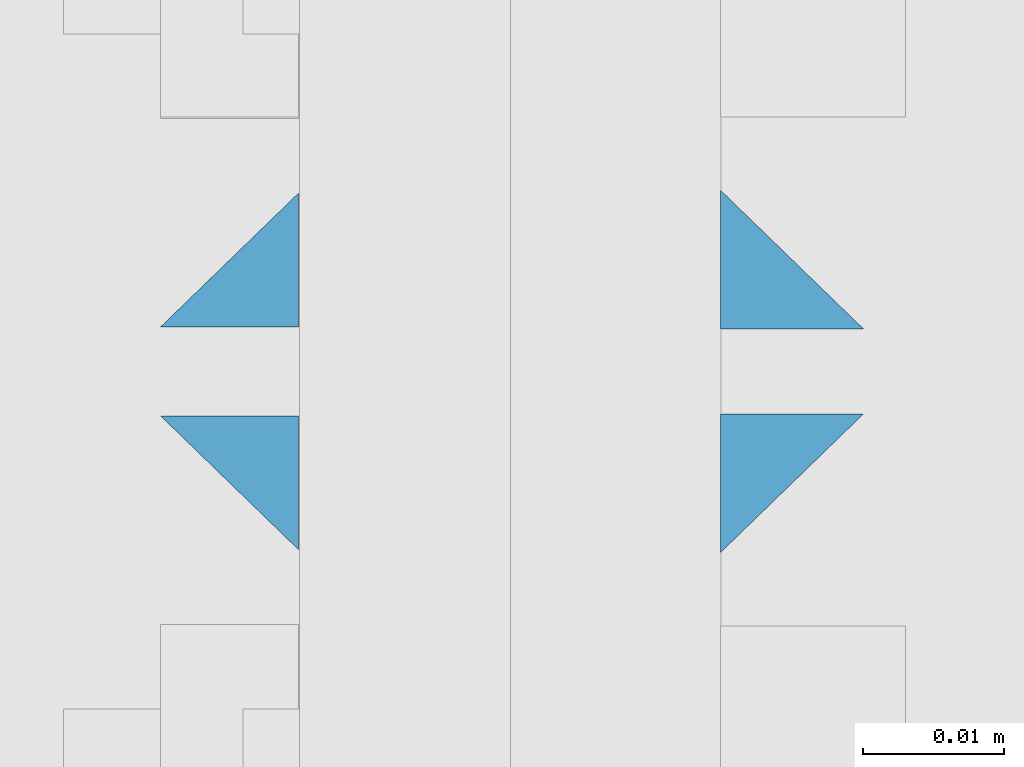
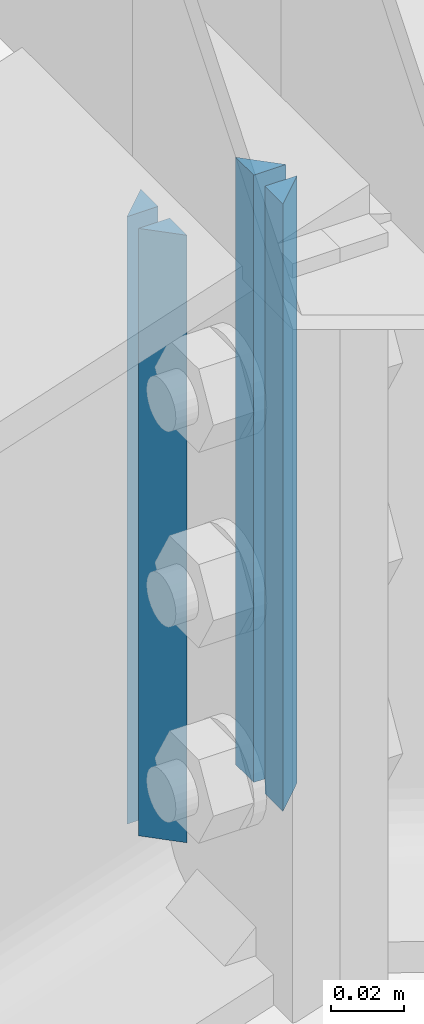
# One storey, part 19 of 53: 6 fasteners.
"""IFC4 building model written with IfcOpenShell, lengths in metres."""

from ifc_helpers import new_model, si_unit, frame, origin_with_axes, place, context, project, spatial, polyline, outline, extrude, type_object, element, save


model = new_model("IFC4")

# Units and contexts
model_context = context("Model", 3, precision=1e-05, world=origin_with_axes())
ifc_project = project(units=[si_unit("LENGTHUNIT", "METRE"), si_unit("AREAUNIT", "SQUARE_METRE"), si_unit("VOLUMEUNIT", "CUBIC_METRE"), si_unit("MASSUNIT", "GRAM", prefix="KILO"), si_unit("TIMEUNIT", "SECOND"), si_unit("PLANEANGLEUNIT", "RADIAN"), si_unit("SOLIDANGLEUNIT", "STERADIAN"), si_unit("THERMODYNAMICTEMPERATUREUNIT", "DEGREE_CELSIUS")], contexts=[model_context])

# Site, building, storey
placement_1 = place(None, origin_with_axes())
site = spatial("IfcSite", under=ifc_project, at=placement_1, Name="Italia", CompositionType="ELEMENT")
building = spatial("IfcBuilding", under=site, at=placement_1, Name="Capannone", CompositionType="ELEMENT")
storey_placement = place(None, frame((0.0, 0.0, 5.550000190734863), z_axis=(0.0, 0.0, 1.0), x_axis=(1.0, 0.0, 0.0)))
storey = spatial("IfcBuildingStorey", under=building, at=storey_placement, Name="Storey 1", CompositionType="ELEMENT", Elevation=5.550000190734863)

# Fasteners
fastener_type_1 = type_object("IfcFastenerType", Name="Collegamenti -1142_-1128 -1143_-1130 -1144_-1132 -1145_-1134 -1146_-1136 -1147_-1138", PredefinedType="WELD")
placement_2 = place(placement_1, origin_with_axes())
fastener_1_placement = place(placement_2, origin_with_axes())
element("IfcFastener", 1, at=fastener_1_placement, inside=storey, type_object=fastener_type_1, Name="Collegamenti -1142_-1128 -1143_-1130 -1144_-1132 -1145_-1134 -1146_-1136 -1147_-1138", context=model_context, shape_type="SweptSolid", body=[
    extrude(outline(polyline([(0.0, 0.0), (0.00986862, 0.0101738), (0.00986862, 0.0), (0.0, 0.0)])), frame((7.01495, 11.9871, 8.07243), z_axis=(0.0, 0.0, -1.0), x_axis=(0.0, 1.0, 0.0)), (0.0, 0.0, 1.0), 0.202095),
])
fastener_type_2 = type_object("IfcFastenerType", Name="Collegamenti -1142_-1128 -1143_-1130 -1144_-1132 -1145_-1134 -1146_-1136 -1147_-1138", PredefinedType="WELD")
fastener_2_placement = place(placement_2, origin_with_axes())
element("IfcFastener", 2, at=fastener_2_placement, inside=storey, type_object=fastener_type_2, Name="Collegamenti -1142_-1128 -1143_-1130 -1144_-1132 -1145_-1134 -1146_-1136 -1147_-1138", context=model_context, shape_type="SweptSolid", body=[
    extrude(outline(polyline([(0.0, 0.0), (-0.00986862, -0.0101738), (-0.00986862, 0.0), (0.0, 0.0)])), frame((7.01495, 12.0129, 7.87034), z_axis=(0.0, 0.0, 1.0), x_axis=(0.0, 1.0, 0.0)), (0.0, 0.0, 1.0), 0.202095),
])
fastener_type_3 = type_object("IfcFastenerType", Name="Collegamenti -1142_-1128 -1143_-1130 -1144_-1132 -1145_-1134 -1146_-1136 -1147_-1138", PredefinedType="WELD")
fastener_3_placement = place(placement_2, origin_with_axes())
element("IfcFastener", 3, at=fastener_3_placement, inside=storey, type_object=fastener_type_3, Name="Collegamenti -1142_-1128 -1143_-1130 -1144_-1132 -1145_-1134 -1146_-1136 -1147_-1138", context=model_context, shape_type="SweptSolid", body=[
    extrude(outline(polyline([(0.0, 0.0), (0.00986862, 0.0101738), (0.00986862, 0.0), (0.0, 0.0)])), frame((7.01495, 11.9871, 8.07243), z_axis=(0.0, 0.0, -1.0), x_axis=(0.0, 1.0, 0.0)), (0.0, 0.0, 1.0), 0.202095),
])
fastener_type_4 = type_object("IfcFastenerType", Name="Collegamenti -1142_-1128 -1143_-1130 -1144_-1132 -1145_-1134 -1146_-1136 -1147_-1138", PredefinedType="WELD")
fastener_4_placement = place(placement_2, origin_with_axes())
element("IfcFastener", 4, at=fastener_4_placement, inside=storey, type_object=fastener_type_4, Name="Collegamenti -1142_-1128 -1143_-1130 -1144_-1132 -1145_-1134 -1146_-1136 -1147_-1138", context=model_context, shape_type="SweptSolid", body=[
    extrude(outline(polyline([(0.0, 0.0), (-0.00986862, -0.0101738), (-0.00986862, 0.0), (0.0, 0.0)])), frame((7.01495, 12.0129, 7.87034), z_axis=(0.0, 0.0, 1.0), x_axis=(0.0, 1.0, 0.0)), (0.0, 0.0, 1.0), 0.202095),
])
fastener_type_5 = type_object("IfcFastenerType", Name="Collegamenti -1142_-1128 -1143_-1130 -1144_-1132 -1145_-1134 -1146_-1136 -1147_-1138", PredefinedType="WELD")
fastener_5_placement = place(placement_2, origin_with_axes())
element("IfcFastener", 5, at=fastener_5_placement, inside=storey, type_object=fastener_type_5, Name="Collegamenti -1142_-1128 -1143_-1130 -1144_-1132 -1145_-1134 -1146_-1136 -1147_-1138", context=model_context, shape_type="SweptSolid", body=[
    extrude(outline(polyline([(0.0, 0.0), (-0.00953197, 0.00982714), (-0.00953197, 0.0), (0.0, 0.0)])), frame((6.98495, 12.0127, 7.87034), z_axis=(0.0, 0.0, 1.0), x_axis=(0.0, 1.0, 0.0)), (0.0, 0.0, 1.0), 0.202095),
])
fastener_type_6 = type_object("IfcFastenerType", Name="Collegamenti -1142_-1128 -1143_-1130 -1144_-1132 -1145_-1134 -1146_-1136 -1147_-1138", PredefinedType="WELD")
fastener_6_placement = place(placement_2, origin_with_axes())
element("IfcFastener", 6, at=fastener_6_placement, inside=storey, type_object=fastener_type_6, Name="Collegamenti -1142_-1128 -1143_-1130 -1144_-1132 -1145_-1134 -1146_-1136 -1147_-1138", context=model_context, shape_type="SweptSolid", body=[
    extrude(outline(polyline([(0.0, 0.0), (0.00953197, -0.00982714), (0.00953197, 0.0), (0.0, 0.0)])), frame((6.98495, 11.9873, 8.07243), z_axis=(0.0, 0.0, -1.0), x_axis=(0.0, 1.0, 0.0)), (0.0, 0.0, 1.0), 0.202095),
])

save(model, "model.ifc")
